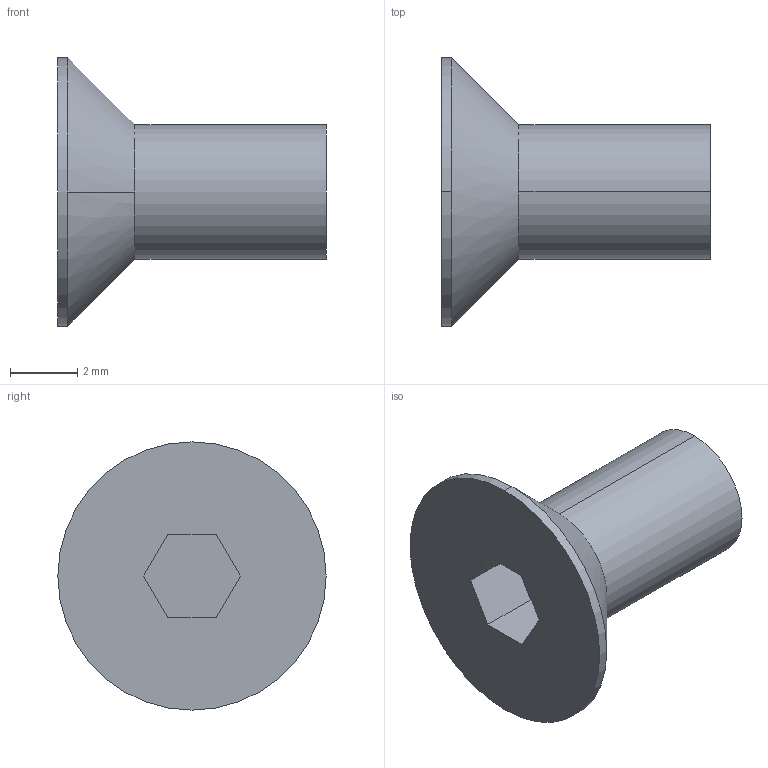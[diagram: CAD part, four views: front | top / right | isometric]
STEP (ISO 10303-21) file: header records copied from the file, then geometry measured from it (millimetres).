
FILE_DESCRIPTION (( 'STEP AP203' ), '1' );
FILE_NAME ('038 Vis FHc M4x8.STEP', '2021-10-27T18:29:43', ( '' ), ( '' ), 'SwSTEP 2.0', 'SolidWorks 2019', '' );
FILE_SCHEMA (( 'CONFIG_CONTROL_DESIGN' ));
Length unit declared in the file: millimetre
Products named in the file (1): 038 Vis FHc M4x8
Bounding box: 8 x 8 x 8 mm (x, y, z)
Volume: 133.4 mm3; surface area: 298.8 mm2
Topology: 1 solids, 1 shells, 22 faces, 54 edges, 36 vertices
Faces by surface type: plane 12, cylinder 8, bspline 2
Entity records: 741 total; most frequent: CARTESIAN_POINT 127, DIRECTION 116, ORIENTED_EDGE 108, EDGE_CURVE 54, AXIS2_PLACEMENT_3D 41, VERTEX_POINT 36, LINE 34, VECTOR 34
